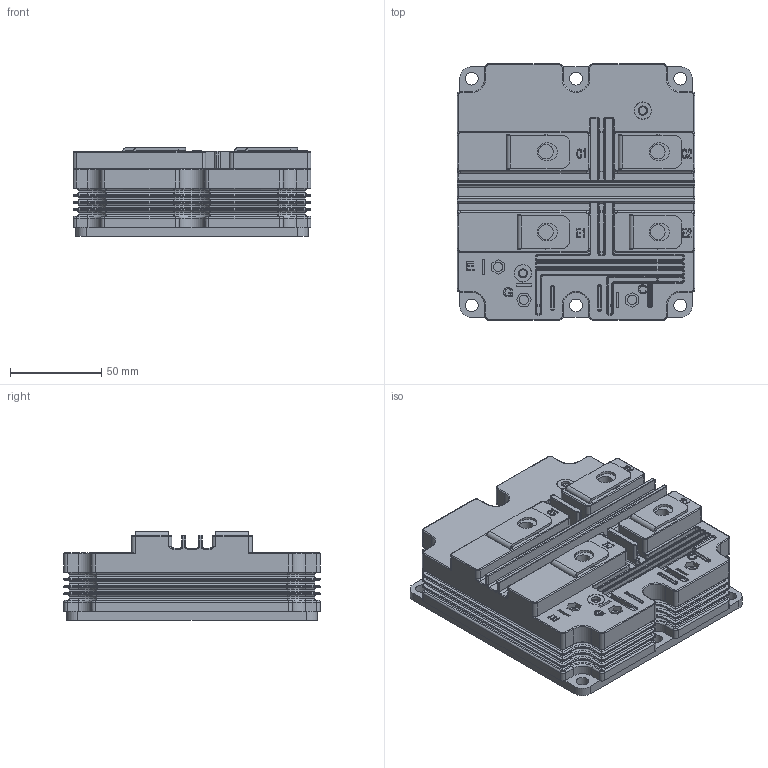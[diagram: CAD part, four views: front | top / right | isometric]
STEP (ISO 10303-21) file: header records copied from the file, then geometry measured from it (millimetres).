
FILE_DESCRIPTION (( 'STEP AP214' ), '1' );
FILE_NAME ('LD-ES-170634-MDM250H65E2.STEP', '2017-08-25T09:08:00', ( 'Flora110' ), ( '' ), 'SwSTEP 2.0', 'SolidWorks 2010', '' );
FILE_SCHEMA (( 'AUTOMOTIVE_DESIGN' ));
Length unit declared in the file: millimetre
Products named in the file (1): LD-ES-170634-MDM250H65E2
Bounding box: 130 x 140 x 48.5 mm (x, y, z)
Volume: 660094.3 mm3; surface area: 95982.1 mm2
Topology: 1 solids, 5 shells, 1821 faces, 4401 edges, 2648 vertices
Faces by surface type: cylinder 718, plane 591, bspline 512
Full cylindrical faces by diameter (mm): 2 x1, 3.5 x4, 4.5 x4, 5 x5, 7 x10, 8 x4, 9 x4, 9.3 x2, 9.5 x2, 18.1 x4, 18.5 x4
Entity records: 60584 total; most frequent: CARTESIAN_POINT 20318, ORIENTED_EDGE 8574, DIRECTION 8151, EDGE_CURVE 4287, AXIS2_PLACEMENT_3D 2952, VERTEX_POINT 2620, VECTOR 2247, LINE 2247
